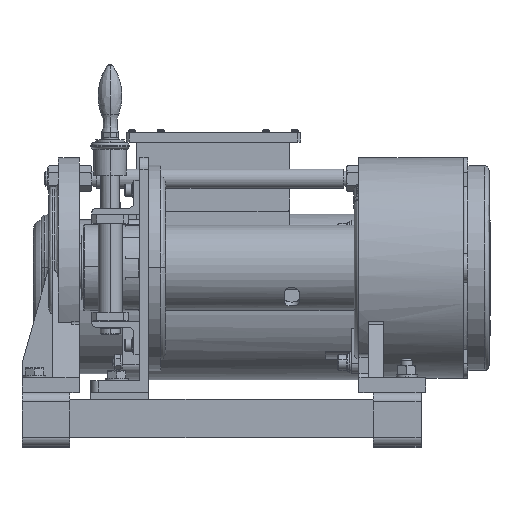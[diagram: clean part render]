
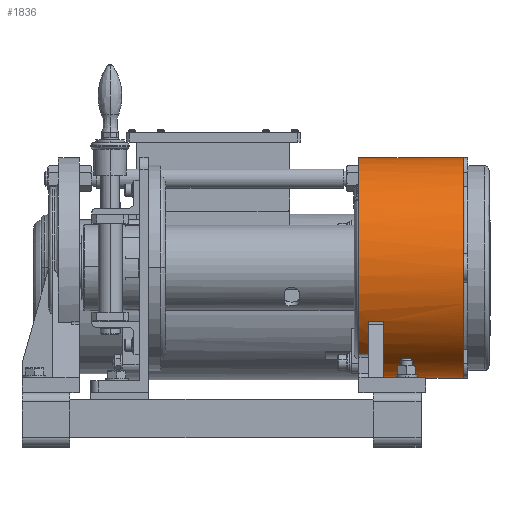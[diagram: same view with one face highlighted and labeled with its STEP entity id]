
A CAD part, top view. The second image highlights one B-rep face of the part: STEP entity #1836.
In plain terms, the highlighted cylindrical face has radius 115 mm (diameter 230 mm), a partial arc.
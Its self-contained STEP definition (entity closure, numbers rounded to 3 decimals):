
#1836=ADVANCED_FACE('',(#20766),#20765,.T.);
#20765=CYLINDRICAL_SURFACE('',#42828,115.);
#20766=FACE_OUTER_BOUND('',#42829,.T.);
#42825=CARTESIAN_POINT('',(1001.323,130.,1078.029));
#42826=DIRECTION('',(-1.,0.,0.));
#42827=DIRECTION('',(0.,-1.,0.));
#42828=AXIS2_PLACEMENT_3D('',#42825,#42826,#42827);
#42829=EDGE_LOOP('',(#59456,#59457,#59458,#59459,#59460,#59461,#59462,#59463,#59464,#59465,#59466,#59467,#59468,#59469));
#59456=ORIENTED_EDGE('',*,*,#70164,.T.);
#59457=ORIENTED_EDGE('',*,*,#65036,.F.);
#59458=ORIENTED_EDGE('',*,*,#70118,.F.);
#59459=ORIENTED_EDGE('',*,*,#70117,.F.);
#59460=ORIENTED_EDGE('',*,*,#65058,.F.);
#59461=ORIENTED_EDGE('',*,*,#70162,.F.);
#59462=ORIENTED_EDGE('',*,*,#65118,.F.);
#59463=ORIENTED_EDGE('',*,*,#65077,.F.);
#59464=ORIENTED_EDGE('',*,*,#66468,.T.);
#59465=ORIENTED_EDGE('',*,*,#65199,.F.);
#59466=ORIENTED_EDGE('',*,*,#65190,.T.);
#59467=ORIENTED_EDGE('',*,*,#65196,.T.);
#59468=ORIENTED_EDGE('',*,*,#65066,.T.);
#59469=ORIENTED_EDGE('',*,*,#66795,.F.);
#65036=EDGE_CURVE('',#73285,#73293,#73294,.T.);
#65058=EDGE_CURVE('',#73437,#73444,#73445,.T.);
#65066=EDGE_CURVE('',#73499,#73500,#73501,.T.);
#65077=EDGE_CURVE('',#73570,#73577,#73578,.T.);
#65118=EDGE_CURVE('',#73577,#73853,#73854,.T.);
#65190=EDGE_CURVE('',#74343,#74336,#74344,.T.);
#65196=EDGE_CURVE('',#74336,#73499,#74381,.T.);
#65199=EDGE_CURVE('',#74343,#74388,#74401,.T.);
#66468=EDGE_CURVE('',#73570,#74388,#82926,.T.);
#66795=EDGE_CURVE('',#73956,#73500,#85122,.T.);
#70117=EDGE_CURVE('',#73444,#96807,#107313,.T.);
#70118=EDGE_CURVE('',#96807,#73285,#107319,.T.);
#70162=EDGE_CURVE('',#73853,#73437,#107601,.T.);
#70164=EDGE_CURVE('',#73956,#73293,#107613,.T.);
#73285=VERTEX_POINT('',#120286);
#73293=VERTEX_POINT('',#120292);
#73294=CIRCLE('',#120296,115.);
#73437=VERTEX_POINT('',#120384);
#73444=VERTEX_POINT('',#120388);
#73445=CIRCLE('',#120392,115.);
#73499=VERTEX_POINT('',#120424);
#73500=VERTEX_POINT('',#120425);
#73501=CIRCLE('',#120429,115.);
#73570=VERTEX_POINT('',#120470);
#73577=VERTEX_POINT('',#120475);
#73578=LINE('',#120476,#120477);
#73853=VERTEX_POINT('',#120641);
#73854=CIRCLE('',#120645,115.);
#73956=VERTEX_POINT('',#120702);
#74336=VERTEX_POINT('',#120929);
#74343=VERTEX_POINT('',#120934);
#74344=CIRCLE('',#120938,115.);
#74381=LINE('',#120956,#120957);
#74388=VERTEX_POINT('',#120960);
#74401=LINE('',#120968,#120969);
#82926=CIRCLE('',#126458,115.);
#85122=LINE('',#127926,#127927);
#96807=VERTEX_POINT('',#135846);
#107313=CIRCLE('',#143711,115.);
#107319=CIRCLE('',#143715,115.);
#107601=LINE('',#143900,#143901);
#107613=LINE('',#143906,#143907);
#120286=CARTESIAN_POINT('',(1019.323,15.144,1083.779));
#120292=CARTESIAN_POINT('',(1019.323,15.,1078.029));
#120293=CARTESIAN_POINT('',(1019.323,130.,1078.029));
#120294=DIRECTION('',(1.,0.,0.));
#120295=DIRECTION('',(0.,-1.,0.));
#120296=AXIS2_PLACEMENT_3D('',#120293,#120294,#120295);
#120384=CARTESIAN_POINT('',(1019.323,245.,1078.029));
#120388=CARTESIAN_POINT('',(1019.323,244.856,1083.779));
#120389=CARTESIAN_POINT('',(1019.323,130.,1078.029));
#120390=DIRECTION('',(1.,0.,0.));
#120391=DIRECTION('',(0.,-1.,0.));
#120392=AXIS2_PLACEMENT_3D('',#120389,#120390,#120391);
#120424=CARTESIAN_POINT('',(934.323,40.228,1149.904));
#120425=CARTESIAN_POINT('',(934.323,15.,1078.029));
#120426=CARTESIAN_POINT('',(934.323,130.,1078.029));
#120427=DIRECTION('',(1.,0.,0.));
#120428=DIRECTION('',(0.,1.,0.));
#120429=AXIS2_PLACEMENT_3D('',#120426,#120427,#120428);
#120470=CARTESIAN_POINT('',(920.323,40.228,1149.904));
#120475=CARTESIAN_POINT('',(910.323,40.228,1149.904));
#120476=CARTESIAN_POINT('',(920.323,40.228,1149.904));
#120477=VECTOR('',#120478,10.);
#120478=DIRECTION('',(-1.,0.,0.));
#120641=CARTESIAN_POINT('',(910.323,245.,1078.029));
#120642=CARTESIAN_POINT('',(910.323,130.,1078.029));
#120643=DIRECTION('',(-1.,0.,0.));
#120644=DIRECTION('',(0.,1.,0.));
#120645=AXIS2_PLACEMENT_3D('',#120642,#120643,#120644);
#120702=CARTESIAN_POINT('',(980.323,15.,1078.029));
#120929=CARTESIAN_POINT('',(936.323,40.228,1149.904));
#120934=CARTESIAN_POINT('',(936.323,74.243,1178.608));
#120935=CARTESIAN_POINT('',(936.323,130.,1078.029));
#120936=DIRECTION('',(1.,0.,0.));
#120937=DIRECTION('',(0.,-1.,0.));
#120938=AXIS2_PLACEMENT_3D('',#120935,#120936,#120937);
#120956=CARTESIAN_POINT('',(936.323,40.228,1149.904));
#120957=VECTOR('',#120958,2.);
#120958=DIRECTION('',(-1.,0.,0.));
#120960=CARTESIAN_POINT('',(920.323,74.243,1178.608));
#120968=CARTESIAN_POINT('',(936.323,74.243,1178.608));
#120969=VECTOR('',#120970,16.);
#120970=DIRECTION('',(-1.,0.,0.));
#126455=CARTESIAN_POINT('',(920.323,130.,1078.029));
#126456=DIRECTION('',(-1.,0.,0.));
#126457=DIRECTION('',(0.,1.,0.));
#126458=AXIS2_PLACEMENT_3D('',#126455,#126456,#126457);
#127926=CARTESIAN_POINT('',(980.323,15.,1078.029));
#127927=VECTOR('',#127928,46.);
#127928=DIRECTION('',(-1.,0.,0.));
#135846=CARTESIAN_POINT('',(1019.323,130.,1193.029));
#143708=CARTESIAN_POINT('',(1019.323,130.,1078.029));
#143709=DIRECTION('',(1.,0.,0.));
#143710=DIRECTION('',(0.,-1.,0.));
#143711=AXIS2_PLACEMENT_3D('',#143708,#143709,#143710);
#143712=CARTESIAN_POINT('',(1019.323,130.,1078.029));
#143713=DIRECTION('',(1.,0.,0.));
#143714=DIRECTION('',(0.,-1.,0.));
#143715=AXIS2_PLACEMENT_3D('',#143712,#143713,#143714);
#143900=CARTESIAN_POINT('',(910.323,245.,1078.029));
#143901=VECTOR('',#143902,109.);
#143902=DIRECTION('',(1.,0.,0.));
#143906=CARTESIAN_POINT('',(980.323,15.,1078.029));
#143907=VECTOR('',#143908,39.);
#143908=DIRECTION('',(1.,0.,0.));
